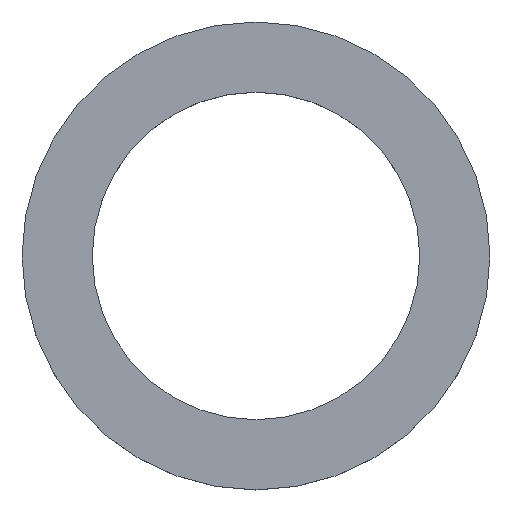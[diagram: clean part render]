
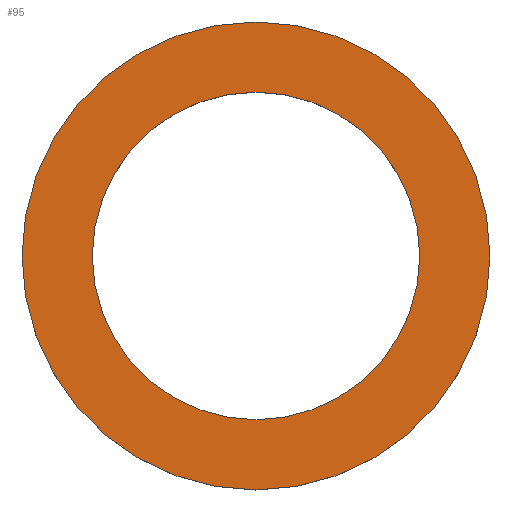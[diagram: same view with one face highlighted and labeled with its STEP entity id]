
A CAD part, top view. The second image highlights one B-rep face of the part: STEP entity #95.
In plain terms, the highlighted planar face has unit normal (0, 0, 1).
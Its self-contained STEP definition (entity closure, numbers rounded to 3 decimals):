
#24 = VERTEX_POINT('',#25);
#25 = CARTESIAN_POINT('',(2.,0.,0.4));
#31 = EDGE_CURVE('',#24,#24,#32,.T.);
#32 = CIRCLE('',#33,2.);
#33 = AXIS2_PLACEMENT_3D('',#34,#35,#36);
#34 = CARTESIAN_POINT('',(0.,0.,0.4));
#35 = DIRECTION('',(0.,0.,1.));
#36 = DIRECTION('',(1.,0.,0.));
#57 = VERTEX_POINT('',#58);
#58 = CARTESIAN_POINT('',(1.4,0.,0.4));
#64 = EDGE_CURVE('',#57,#57,#65,.T.);
#65 = CIRCLE('',#66,1.4);
#66 = AXIS2_PLACEMENT_3D('',#67,#68,#69);
#67 = CARTESIAN_POINT('',(0.,0.,0.4));
#68 = DIRECTION('',(0.,0.,1.));
#69 = DIRECTION('',(1.,0.,0.));
#95 = ADVANCED_FACE('',(#96,#99),#102,.T.);
#96 = FACE_BOUND('',#97,.T.);
#97 = EDGE_LOOP('',(#98));
#98 = ORIENTED_EDGE('',*,*,#31,.T.);
#99 = FACE_BOUND('',#100,.F.);
#100 = EDGE_LOOP('',(#101));
#101 = ORIENTED_EDGE('',*,*,#64,.T.);
#102 = PLANE('',#103);
#103 = AXIS2_PLACEMENT_3D('',#104,#105,#106);
#104 = CARTESIAN_POINT('',(0.,0.,0.4));
#105 = DIRECTION('',(0.,0.,1.));
#106 = DIRECTION('',(1.,0.,0.));
